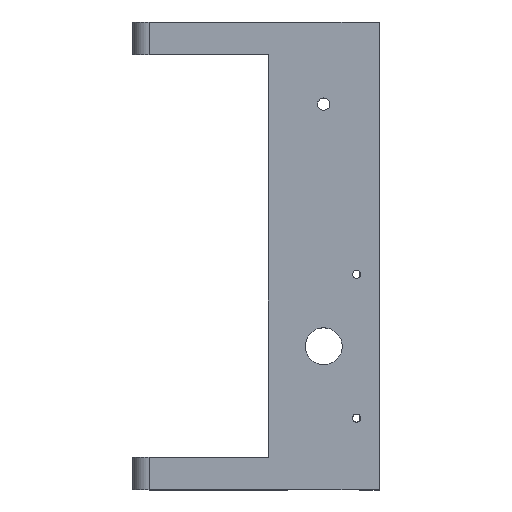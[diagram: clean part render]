
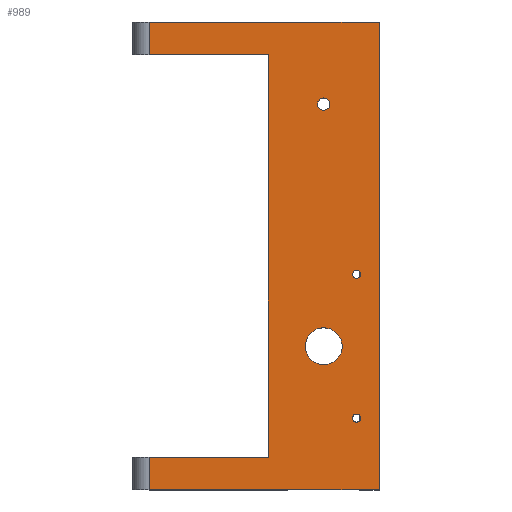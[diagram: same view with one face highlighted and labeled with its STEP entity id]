
A CAD part, top view. The second image highlights one B-rep face of the part: STEP entity #989.
In plain terms, the highlighted planar face has unit normal (0, 0, 1).
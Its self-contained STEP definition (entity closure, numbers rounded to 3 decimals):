
#42=DIRECTION('',(-1.,0.,0.));
#43=VECTOR('',#42,56.);
#44=CARTESIAN_POINT('',(13.5,20.,17.65));
#45=LINE('',#44,#43);
#116=CARTESIAN_POINT('',(0.,-59.,17.65));
#117=DIRECTION('',(0.,0.,1.));
#118=DIRECTION('',(1.,0.,0.));
#119=AXIS2_PLACEMENT_3D('',#116,#117,#118);
#121=CARTESIAN_POINT('',(0.,-59.,17.65));
#122=DIRECTION('',(0.,0.,1.));
#123=DIRECTION('',(-1.,0.,0.));
#124=AXIS2_PLACEMENT_3D('',#121,#122,#123);
#126=CARTESIAN_POINT('',(8.,-41.5,17.65));
#127=DIRECTION('',(0.,0.,1.));
#128=DIRECTION('',(1.,0.,0.));
#129=AXIS2_PLACEMENT_3D('',#126,#127,#128);
#131=CARTESIAN_POINT('',(8.,-41.5,17.65));
#132=DIRECTION('',(0.,0.,1.));
#133=DIRECTION('',(-1.,0.,0.));
#134=AXIS2_PLACEMENT_3D('',#131,#132,#133);
#136=CARTESIAN_POINT('',(8.,-76.5,17.65));
#137=DIRECTION('',(0.,0.,1.));
#138=DIRECTION('',(1.,0.,0.));
#139=AXIS2_PLACEMENT_3D('',#136,#137,#138);
#141=CARTESIAN_POINT('',(8.,-76.5,17.65));
#142=DIRECTION('',(0.,0.,1.));
#143=DIRECTION('',(-1.,0.,0.));
#144=AXIS2_PLACEMENT_3D('',#141,#142,#143);
#146=DIRECTION('',(0.,1.,0.));
#147=VECTOR('',#146,8.);
#148=CARTESIAN_POINT('',(-42.5,12.,17.65));
#149=LINE('',#148,#147);
#150=DIRECTION('',(0.,1.,0.));
#151=VECTOR('',#150,8.);
#152=CARTESIAN_POINT('',(-42.5,-94.,17.65));
#153=LINE('',#152,#151);
#154=DIRECTION('',(0.,-1.,0.));
#155=VECTOR('',#154,98.);
#156=CARTESIAN_POINT('',(-13.5,12.,17.65));
#157=LINE('',#156,#155);
#158=DIRECTION('',(-1.,0.,0.));
#159=VECTOR('',#158,29.);
#160=CARTESIAN_POINT('',(-13.5,12.,17.65));
#161=LINE('',#160,#159);
#162=CARTESIAN_POINT('',(0.,0.,17.65));
#163=DIRECTION('',(0.,0.,1.));
#164=DIRECTION('',(-1.,0.,0.));
#165=AXIS2_PLACEMENT_3D('',#162,#163,#164);
#167=CARTESIAN_POINT('',(0.,0.,17.65));
#168=DIRECTION('',(0.,0.,1.));
#169=DIRECTION('',(1.,0.,0.));
#170=AXIS2_PLACEMENT_3D('',#167,#168,#169);
#263=DIRECTION('',(1.,0.,0.));
#264=VECTOR('',#263,56.);
#265=CARTESIAN_POINT('',(-42.5,-94.,17.65));
#266=LINE('',#265,#264);
#316=DIRECTION('',(-1.,0.,0.));
#317=VECTOR('',#316,29.);
#318=CARTESIAN_POINT('',(-13.5,-86.,17.65));
#319=LINE('',#318,#317);
#394=DIRECTION('',(0.,-1.,0.));
#395=VECTOR('',#394,114.);
#396=CARTESIAN_POINT('',(13.5,20.,17.65));
#397=LINE('',#396,#395);
#630=CARTESIAN_POINT('',(13.5,20.,17.65));
#632=VERTEX_POINT('',#630);
#634=CARTESIAN_POINT('',(13.5,-94.,17.65));
#636=VERTEX_POINT('',#634);
#662=CARTESIAN_POINT('',(4.5,-59.,17.65));
#663=CARTESIAN_POINT('',(-4.5,-59.,17.65));
#664=VERTEX_POINT('',#662);
#665=VERTEX_POINT('',#663);
#670=CARTESIAN_POINT('',(9.,-41.5,17.65));
#671=CARTESIAN_POINT('',(7.,-41.5,17.65));
#672=VERTEX_POINT('',#670);
#673=VERTEX_POINT('',#671);
#674=CARTESIAN_POINT('',(9.,-76.5,17.65));
#675=CARTESIAN_POINT('',(7.,-76.5,17.65));
#676=VERTEX_POINT('',#674);
#677=VERTEX_POINT('',#675);
#695=CARTESIAN_POINT('',(-13.5,-86.,17.65));
#697=VERTEX_POINT('',#695);
#699=CARTESIAN_POINT('',(-13.5,12.,17.65));
#701=VERTEX_POINT('',#699);
#703=CARTESIAN_POINT('',(-42.5,20.,17.65));
#705=VERTEX_POINT('',#703);
#706=CARTESIAN_POINT('',(-42.5,12.,17.65));
#707=VERTEX_POINT('',#706);
#719=CARTESIAN_POINT('',(-42.5,-86.,17.65));
#721=VERTEX_POINT('',#719);
#722=CARTESIAN_POINT('',(-42.5,-94.,17.65));
#723=VERTEX_POINT('',#722);
#778=CARTESIAN_POINT('',(-1.5,0.,17.65));
#779=CARTESIAN_POINT('',(1.5,0.,17.65));
#780=VERTEX_POINT('',#778);
#781=VERTEX_POINT('',#779);
#945=CARTESIAN_POINT('',(-13.5,20.,17.65));
#946=DIRECTION('',(0.,0.,1.));
#947=DIRECTION('',(1.,0.,0.));
#948=AXIS2_PLACEMENT_3D('',#945,#946,#947);
#949=PLANE('',#948);
#950=ORIENTED_EDGE('',*,*,#937,.T.);
#951=ORIENTED_EDGE('',*,*,#817,.F.);
#953=ORIENTED_EDGE('',*,*,#952,.T.);
#955=ORIENTED_EDGE('',*,*,#954,.F.);
#957=ORIENTED_EDGE('',*,*,#956,.T.);
#959=ORIENTED_EDGE('',*,*,#958,.F.);
#961=ORIENTED_EDGE('',*,*,#960,.F.);
#962=ORIENTED_EDGE('',*,*,#914,.T.);
#963=EDGE_LOOP('',(#950,#951,#953,#955,#957,#959,#961,#962));
#964=FACE_OUTER_BOUND('',#963,.F.);
#966=ORIENTED_EDGE('',*,*,#965,.T.);
#968=ORIENTED_EDGE('',*,*,#967,.T.);
#969=EDGE_LOOP('',(#966,#968));
#970=FACE_BOUND('',#969,.F.);
#972=ORIENTED_EDGE('',*,*,#971,.T.);
#974=ORIENTED_EDGE('',*,*,#973,.T.);
#975=EDGE_LOOP('',(#972,#974));
#976=FACE_BOUND('',#975,.F.);
#978=ORIENTED_EDGE('',*,*,#977,.T.);
#980=ORIENTED_EDGE('',*,*,#979,.T.);
#981=EDGE_LOOP('',(#978,#980));
#982=FACE_BOUND('',#981,.F.);
#984=ORIENTED_EDGE('',*,*,#983,.T.);
#986=ORIENTED_EDGE('',*,*,#985,.T.);
#987=EDGE_LOOP('',(#984,#986));
#988=FACE_BOUND('',#987,.F.);
#989=ADVANCED_FACE('',(#964,#970,#976,#982,#988),#949,.T.);
#120=CIRCLE('',#119,4.5);
#125=CIRCLE('',#124,4.5);
#130=CIRCLE('',#129,1.);
#135=CIRCLE('',#134,1.);
#140=CIRCLE('',#139,1.);
#145=CIRCLE('',#144,1.);
#166=CIRCLE('',#165,1.5);
#171=CIRCLE('',#170,1.5);
#817=EDGE_CURVE('',#632,#705,#45,.T.);
#914=EDGE_CURVE('',#701,#707,#161,.T.);
#937=EDGE_CURVE('',#707,#705,#149,.T.);
#952=EDGE_CURVE('',#632,#636,#397,.T.);
#954=EDGE_CURVE('',#723,#636,#266,.T.);
#956=EDGE_CURVE('',#723,#721,#153,.T.);
#958=EDGE_CURVE('',#697,#721,#319,.T.);
#960=EDGE_CURVE('',#701,#697,#157,.T.);
#965=EDGE_CURVE('',#672,#673,#130,.T.);
#967=EDGE_CURVE('',#673,#672,#135,.T.);
#971=EDGE_CURVE('',#676,#677,#140,.T.);
#973=EDGE_CURVE('',#677,#676,#145,.T.);
#977=EDGE_CURVE('',#664,#665,#120,.T.);
#979=EDGE_CURVE('',#665,#664,#125,.T.);
#983=EDGE_CURVE('',#780,#781,#166,.T.);
#985=EDGE_CURVE('',#781,#780,#171,.T.);
